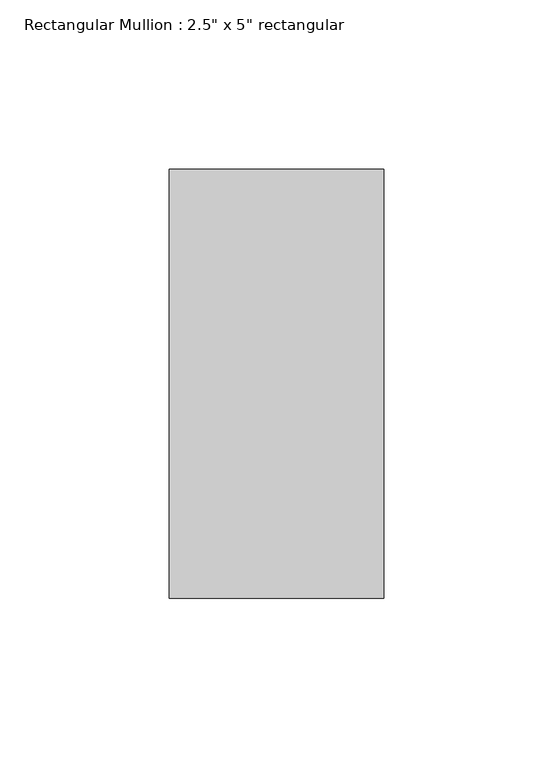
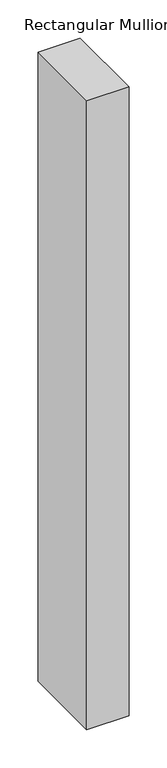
"""IFC4 building model written with IfcOpenShell, lengths in millimetres: member geometry."""

from ifc_helpers import new_model, si_unit, frame, origin, place, context, project, spatial, polyline, outline, extrude, source, transform, mapped, element, save


def member_03d4f0e7(model_context):
    return source(origin(), model_context, "Body", "SweptSolid", [
        extrude(outline(polyline([(0.0, 63.5), (0.0, -63.5), (-63.5, -63.5), (-63.5, 63.5), (0.0, 63.5)])), frame((0.0, 0.0, -1002.7873386), z_axis=(0.0, 0.0, 1.0), x_axis=(1.0, 0.0, 0.0)), (0.0, 0.0, 1.0), 1002.7873386),
    ])


if __name__ == "__main__":
    model = new_model("IFC4")
    model_context = context("Model", 3, world=origin())
    ifc_project = project(units=[si_unit("LENGTHUNIT", "METRE", prefix="MILLI")], contexts=[model_context])
    site = spatial("IfcSite", under=ifc_project)
    building = spatial("IfcBuilding", under=site)
    placement = place(None, origin())
    member_shape = member_03d4f0e7(model_context)
    element("IfcMember", 1, ObjectType="Rectangular Mullion : 2.5\" x 5\" rectangular", at=placement, inside=building, context=model_context, shape_type="MappedRepresentation", body=[
        mapped(member_shape, transform((0.0, 0.0, 0.0), x_axis=(1.0, 0.0, 0.0), y_axis=(0.0, 1.0, 0.0), z_axis=(0.0, 0.0, 1.0))),
    ])
    save(model, "model.ifc")
